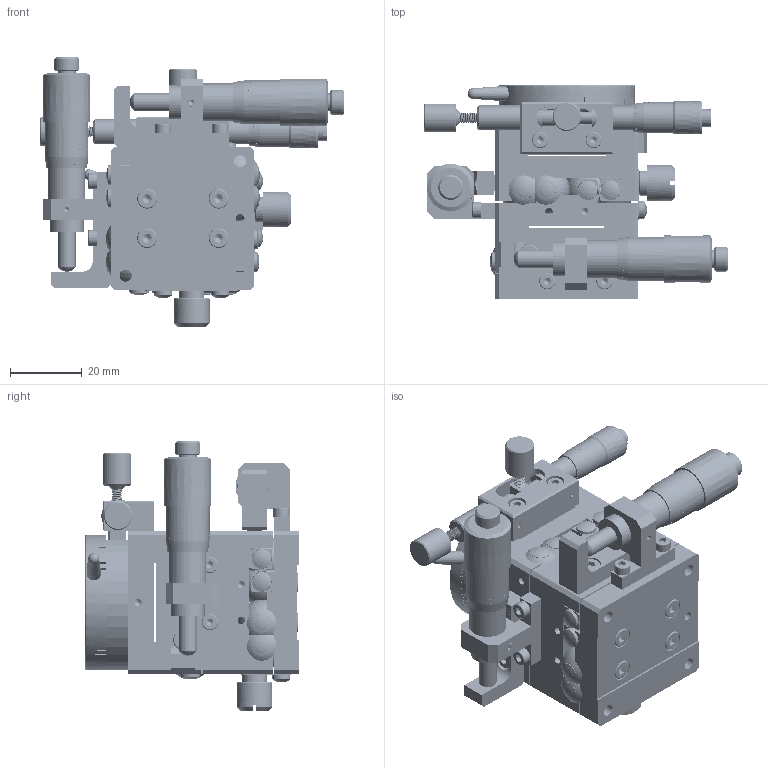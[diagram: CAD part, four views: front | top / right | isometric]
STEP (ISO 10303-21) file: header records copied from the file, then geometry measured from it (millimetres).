
FILE_DESCRIPTION (( 'STEP AP203' ), '1' );
FILE_NAME ('BLR40.STEP', '2024-07-27T07:27:45', ( 'Windows User' ), ( 'P R C' ), 'SwSTEP 2.0', 'SolidWorks 2024', '' );
FILE_SCHEMA (( 'CONFIG_CONTROL_DESIGN' ));
Products named in the file (1): BLR40
Bounding box: 85.1 x 60 x 75.4 mm (x, y, z)
Volume: 90023.6 mm3; surface area: 82574.3 mm2
Topology: 83 solids, 83 shells, 5586 faces, 15634 edges, 10697 vertices
Faces by surface type: plane 2919, bspline 1155, cylinder 907, cone 549, torus 48, sphere 8
Full cylindrical faces by diameter (mm): 1.6 x16, 2 x22, 2.05 x38, 2.4 x4, 2.5 x46, 2.55 x16, 2.8 x2, 2.9 x4, 2.95 x18, 3 x31, 3.1 x4, 3.2 x4, 3.4 x28, 3.5 x2, 4 x2, 4.1 x1, 4.3 x4, 4.4 x16, 4.5 x8, 4.7 x1, 5 x17, 5.5 x24, 5.7 x1, 5.8 x4, 6 x33, 6.6 x1, 7 x7, 8 x4, 8.5 x2, 8.7 x1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
Entity records: 280158 total; most frequent: CARTESIAN_POINT 152370, ORIENTED_EDGE 29412, DIRECTION 20234, EDGE_CURVE 14706, VERTEX_POINT 10432, EDGE_LOOP 7040, AXIS2_PLACEMENT_3D 6933, LINE 6368
